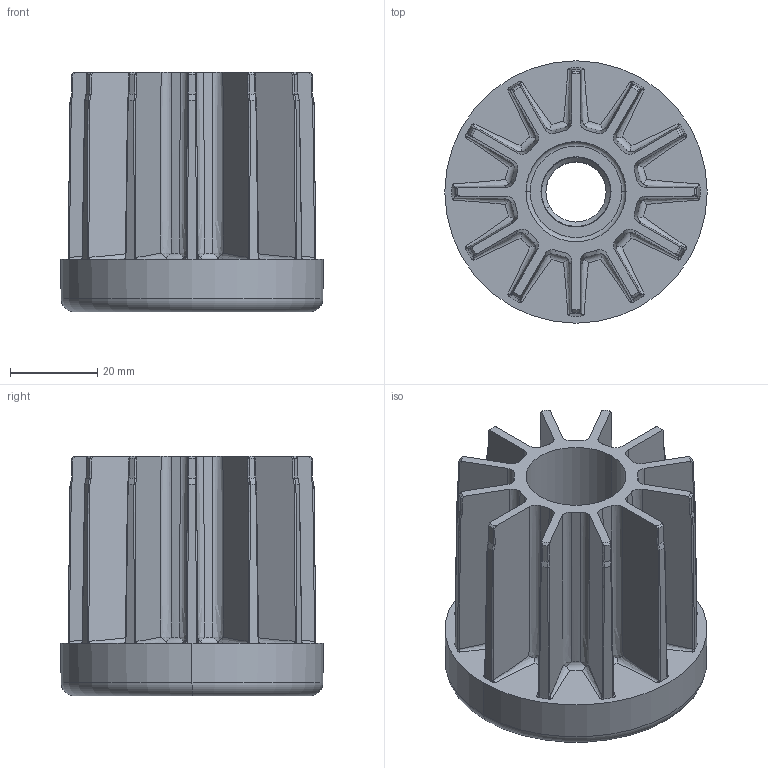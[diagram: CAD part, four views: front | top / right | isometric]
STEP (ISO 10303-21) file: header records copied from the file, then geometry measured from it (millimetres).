
FILE_DESCRIPTION(('CATIA V5 STEP Exchange'),'2;1');
FILE_NAME('C:\Users\dentellad\Desktop\P41505_01.stp','2017-01-12T15:15:29+00:00',('none'),('none'),'Version 5-6 Release 2012','CATIA V5 STEP AP203','none');
FILE_SCHEMA(('CONFIG_CONTROL_DESIGN'));
Length unit declared in the file: millimetre
Products named in the file (1): P41505_01
Assembly tree (2 placements, depth 2):
  P41505_01
    #58
    #30481
Bounding box: 60.3 x 60.3 x 55 mm (x, y, z)
Volume: 65766 mm3; surface area: 30165.4 mm2
Topology: 2 solids, 2 shells, 749 faces, 2111 edges, 1378 vertices
Faces by surface type: plane 474, bspline 168, cone 62, cylinder 29, torus 16
Entity records: 30931 total; most frequent: CARTESIAN_POINT 14411, ORIENTED_EDGE 4222, EDGE_CURVE 2111, DIRECTION 2087, VERTEX_POINT 1378, B_SPLINE_CURVE_WITH_KNOTS 1080, VECTOR 893, LINE 893
